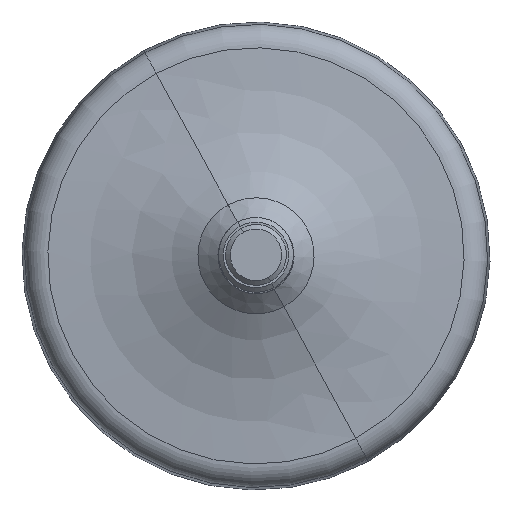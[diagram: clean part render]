
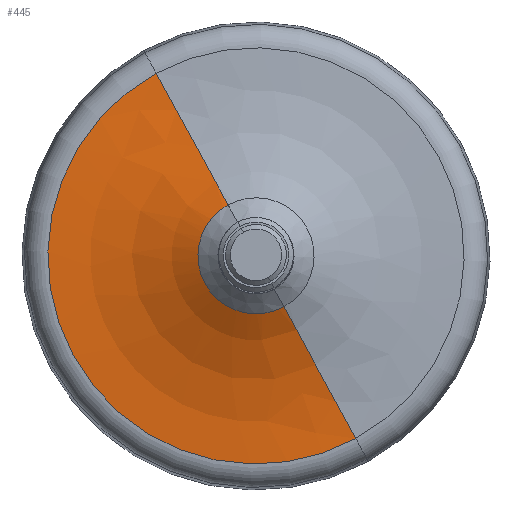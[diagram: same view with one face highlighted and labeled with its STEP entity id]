
A CAD part, top view. The second image highlights one B-rep face of the part: STEP entity #445.
In plain terms, the highlighted face is a revolution surface.
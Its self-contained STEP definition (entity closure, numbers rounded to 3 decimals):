
#376=CARTESIAN_POINT('Vertex',(21.315,-39.017,20.)) ;
#379=CARTESIAN_POINT('Axis2P3D Location',(0.,0.,20.)) ;
#383=CARTESIAN_POINT('Vertex',(-21.315,39.017,20.)) ;
#411=CARTESIAN_POINT('Control Point',(-4.794,8.776,29.559)) ;
#412=CARTESIAN_POINT('Control Point',(-8.498,15.555,24.83)) ;
#413=CARTESIAN_POINT('Control Point',(-12.623,23.107,21.537)) ;
#414=CARTESIAN_POINT('Control Point',(-16.973,31.069,19.927)) ;
#415=CARTESIAN_POINT('Control Point',(-21.315,39.017,20.)) ;
#416=CARTESIAN_POINT('Axis1P Location',(0.,0.,84.998)) ;
#420=CARTESIAN_POINT('Axis2P3D Location',(21.063,-38.556,84.998)) ;
#424=CARTESIAN_POINT('Vertex',(4.794,-8.776,29.559)) ;
#427=CARTESIAN_POINT('Axis2P3D Location',(0.,0.,29.559)) ;
#431=CARTESIAN_POINT('Vertex',(-4.794,8.776,29.559)) ;
#434=CARTESIAN_POINT('Axis2P3D Location',(-21.063,38.556,84.998)) ;
#380=DIRECTION('Axis2P3D Direction',(0.,0.,1.)) ;
#417=DIRECTION('Axis1P Direction',(-0.,-0.,-1.)) ;
#421=DIRECTION('Axis2P3D Direction',(-0.878,-0.479,0.)) ;
#428=DIRECTION('Axis2P3D Direction',(0.,0.,1.)) ;
#435=DIRECTION('Axis2P3D Direction',(0.878,0.479,-0.)) ;
#381=AXIS2_PLACEMENT_3D('Circle Axis2P3D',#379,#380,$) ;
#422=AXIS2_PLACEMENT_3D('Circle Axis2P3D',#420,#421,$) ;
#429=AXIS2_PLACEMENT_3D('Circle Axis2P3D',#427,#428,$) ;
#436=AXIS2_PLACEMENT_3D('Circle Axis2P3D',#434,#435,$) ;
#440=ORIENTED_EDGE('',*,*,#426,.T.) ;
#441=ORIENTED_EDGE('',*,*,#433,.F.) ;
#442=ORIENTED_EDGE('',*,*,#438,.F.) ;
#443=ORIENTED_EDGE('',*,*,#385,.T.) ;
#445=ADVANCED_FACE('PartBody',(#444),#419,.T.) ;
#418=AXIS1_PLACEMENT('Revolution Surface Axis1P',#416,#417) ;
#410=B_SPLINE_CURVE_WITH_KNOTS('',4,(#411,#412,#413,#414,#415),.UNSPECIFIED.,.F.,.U.,(5,5),(-137.804,-101.576),.UNSPECIFIED.) ;
#382=CIRCLE('generated circle',#381,44.46) ;
#423=CIRCLE('generated circle',#422,65.) ;
#430=CIRCLE('generated circle',#429,10.) ;
#437=CIRCLE('generated circle',#436,65.) ;
#385=EDGE_CURVE('',#384,#377,#382,.T.) ;
#426=EDGE_CURVE('',#377,#425,#423,.F.) ;
#433=EDGE_CURVE('',#432,#425,#430,.T.) ;
#438=EDGE_CURVE('',#384,#432,#437,.F.) ;
#439=EDGE_LOOP('',(#440,#441,#442,#443)) ;
#444=FACE_OUTER_BOUND('',#439,.T.) ;
#419=SURFACE_OF_REVOLUTION('homeo Torus',#410,#418) ;
#377=VERTEX_POINT('',#376) ;
#384=VERTEX_POINT('',#383) ;
#425=VERTEX_POINT('',#424) ;
#432=VERTEX_POINT('',#431) ;
